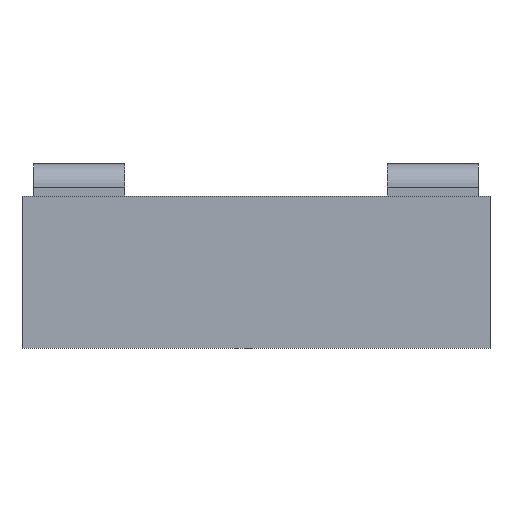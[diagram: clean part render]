
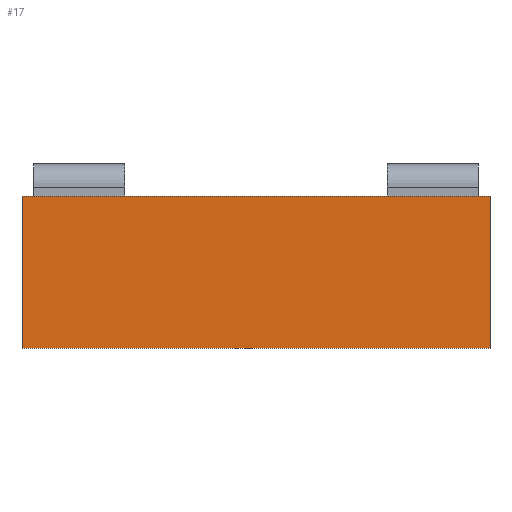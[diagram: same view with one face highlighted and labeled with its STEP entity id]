
A CAD part, left-side view. The second image highlights one B-rep face of the part: STEP entity #17.
In plain terms, the highlighted planar face has unit normal (-1, 0, 0).
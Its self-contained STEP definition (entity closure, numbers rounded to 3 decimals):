
#17 = ADVANCED_FACE('',(#18),#32,.F.);
#18 = FACE_BOUND('',#19,.F.);
#19 = EDGE_LOOP('',(#20,#55,#83,#111));
#20 = ORIENTED_EDGE('',*,*,#21,.F.);
#21 = EDGE_CURVE('',#22,#24,#26,.T.);
#22 = VERTEX_POINT('',#23);
#23 = CARTESIAN_POINT('',(0.,0.,0.));
#24 = VERTEX_POINT('',#25);
#25 = CARTESIAN_POINT('',(0.,0.,13.));
#26 = SURFACE_CURVE('',#27,(#31,#43),.PCURVE_S1.);
#27 = LINE('',#28,#29);
#28 = CARTESIAN_POINT('',(0.,0.,0.));
#29 = VECTOR('',#30,1.);
#30 = DIRECTION('',(0.,0.,1.));
#31 = PCURVE('',#32,#37);
#32 = PLANE('',#33);
#33 = AXIS2_PLACEMENT_3D('',#34,#35,#36);
#34 = CARTESIAN_POINT('',(0.,0.,0.));
#35 = DIRECTION('',(1.,0.,-0.));
#36 = DIRECTION('',(0.,0.,1.));
#37 = DEFINITIONAL_REPRESENTATION('',(#38),#42);
#38 = LINE('',#39,#40);
#39 = CARTESIAN_POINT('',(0.,0.));
#40 = VECTOR('',#41,1.);
#41 = DIRECTION('',(1.,0.));
#42 = ( GEOMETRIC_REPRESENTATION_CONTEXT(2) 
PARAMETRIC_REPRESENTATION_CONTEXT() REPRESENTATION_CONTEXT('2D SPACE',''
  ) );
#43 = PCURVE('',#44,#49);
#44 = PLANE('',#45);
#45 = AXIS2_PLACEMENT_3D('',#46,#47,#48);
#46 = CARTESIAN_POINT('',(0.,0.,0.));
#47 = DIRECTION('',(-0.,1.,0.));
#48 = DIRECTION('',(0.,0.,1.));
#49 = DEFINITIONAL_REPRESENTATION('',(#50),#54);
#50 = LINE('',#51,#52);
#51 = CARTESIAN_POINT('',(0.,0.));
#52 = VECTOR('',#53,1.);
#53 = DIRECTION('',(1.,0.));
#54 = ( GEOMETRIC_REPRESENTATION_CONTEXT(2) 
PARAMETRIC_REPRESENTATION_CONTEXT() REPRESENTATION_CONTEXT('2D SPACE',''
  ) );
#55 = ORIENTED_EDGE('',*,*,#56,.T.);
#56 = EDGE_CURVE('',#22,#57,#59,.T.);
#57 = VERTEX_POINT('',#58);
#58 = CARTESIAN_POINT('',(0.,40.,0.));
#59 = SURFACE_CURVE('',#60,(#64,#71),.PCURVE_S1.);
#60 = LINE('',#61,#62);
#61 = CARTESIAN_POINT('',(0.,0.,0.));
#62 = VECTOR('',#63,1.);
#63 = DIRECTION('',(-0.,1.,0.));
#64 = PCURVE('',#32,#65);
#65 = DEFINITIONAL_REPRESENTATION('',(#66),#70);
#66 = LINE('',#67,#68);
#67 = CARTESIAN_POINT('',(0.,0.));
#68 = VECTOR('',#69,1.);
#69 = DIRECTION('',(0.,-1.));
#70 = ( GEOMETRIC_REPRESENTATION_CONTEXT(2) 
PARAMETRIC_REPRESENTATION_CONTEXT() REPRESENTATION_CONTEXT('2D SPACE',''
  ) );
#71 = PCURVE('',#72,#77);
#72 = PLANE('',#73);
#73 = AXIS2_PLACEMENT_3D('',#74,#75,#76);
#74 = CARTESIAN_POINT('',(0.,0.,0.));
#75 = DIRECTION('',(0.,0.,1.));
#76 = DIRECTION('',(1.,0.,-0.));
#77 = DEFINITIONAL_REPRESENTATION('',(#78),#82);
#78 = LINE('',#79,#80);
#79 = CARTESIAN_POINT('',(0.,0.));
#80 = VECTOR('',#81,1.);
#81 = DIRECTION('',(0.,1.));
#82 = ( GEOMETRIC_REPRESENTATION_CONTEXT(2) 
PARAMETRIC_REPRESENTATION_CONTEXT() REPRESENTATION_CONTEXT('2D SPACE',''
  ) );
#83 = ORIENTED_EDGE('',*,*,#84,.T.);
#84 = EDGE_CURVE('',#57,#85,#87,.T.);
#85 = VERTEX_POINT('',#86);
#86 = CARTESIAN_POINT('',(0.,40.,13.));
#87 = SURFACE_CURVE('',#88,(#92,#99),.PCURVE_S1.);
#88 = LINE('',#89,#90);
#89 = CARTESIAN_POINT('',(0.,40.,0.));
#90 = VECTOR('',#91,1.);
#91 = DIRECTION('',(0.,0.,1.));
#92 = PCURVE('',#32,#93);
#93 = DEFINITIONAL_REPRESENTATION('',(#94),#98);
#94 = LINE('',#95,#96);
#95 = CARTESIAN_POINT('',(0.,-40.));
#96 = VECTOR('',#97,1.);
#97 = DIRECTION('',(1.,0.));
#98 = ( GEOMETRIC_REPRESENTATION_CONTEXT(2) 
PARAMETRIC_REPRESENTATION_CONTEXT() REPRESENTATION_CONTEXT('2D SPACE',''
  ) );
#99 = PCURVE('',#100,#105);
#100 = PLANE('',#101);
#101 = AXIS2_PLACEMENT_3D('',#102,#103,#104);
#102 = CARTESIAN_POINT('',(0.,40.,0.));
#103 = DIRECTION('',(-0.,1.,0.));
#104 = DIRECTION('',(0.,0.,1.));
#105 = DEFINITIONAL_REPRESENTATION('',(#106),#110);
#106 = LINE('',#107,#108);
#107 = CARTESIAN_POINT('',(0.,0.));
#108 = VECTOR('',#109,1.);
#109 = DIRECTION('',(1.,0.));
#110 = ( GEOMETRIC_REPRESENTATION_CONTEXT(2) 
PARAMETRIC_REPRESENTATION_CONTEXT() REPRESENTATION_CONTEXT('2D SPACE',''
  ) );
#111 = ORIENTED_EDGE('',*,*,#112,.F.);
#112 = EDGE_CURVE('',#24,#85,#113,.T.);
#113 = SURFACE_CURVE('',#114,(#118,#125),.PCURVE_S1.);
#114 = LINE('',#115,#116);
#115 = CARTESIAN_POINT('',(0.,0.,13.));
#116 = VECTOR('',#117,1.);
#117 = DIRECTION('',(-0.,1.,0.));
#118 = PCURVE('',#32,#119);
#119 = DEFINITIONAL_REPRESENTATION('',(#120),#124);
#120 = LINE('',#121,#122);
#121 = CARTESIAN_POINT('',(13.,0.));
#122 = VECTOR('',#123,1.);
#123 = DIRECTION('',(0.,-1.));
#124 = ( GEOMETRIC_REPRESENTATION_CONTEXT(2) 
PARAMETRIC_REPRESENTATION_CONTEXT() REPRESENTATION_CONTEXT('2D SPACE',''
  ) );
#125 = PCURVE('',#126,#131);
#126 = PLANE('',#127);
#127 = AXIS2_PLACEMENT_3D('',#128,#129,#130);
#128 = CARTESIAN_POINT('',(0.,0.,13.));
#129 = DIRECTION('',(0.,0.,1.));
#130 = DIRECTION('',(1.,0.,-0.));
#131 = DEFINITIONAL_REPRESENTATION('',(#132),#136);
#132 = LINE('',#133,#134);
#133 = CARTESIAN_POINT('',(0.,0.));
#134 = VECTOR('',#135,1.);
#135 = DIRECTION('',(0.,1.));
#136 = ( GEOMETRIC_REPRESENTATION_CONTEXT(2) 
PARAMETRIC_REPRESENTATION_CONTEXT() REPRESENTATION_CONTEXT('2D SPACE',''
  ) );
